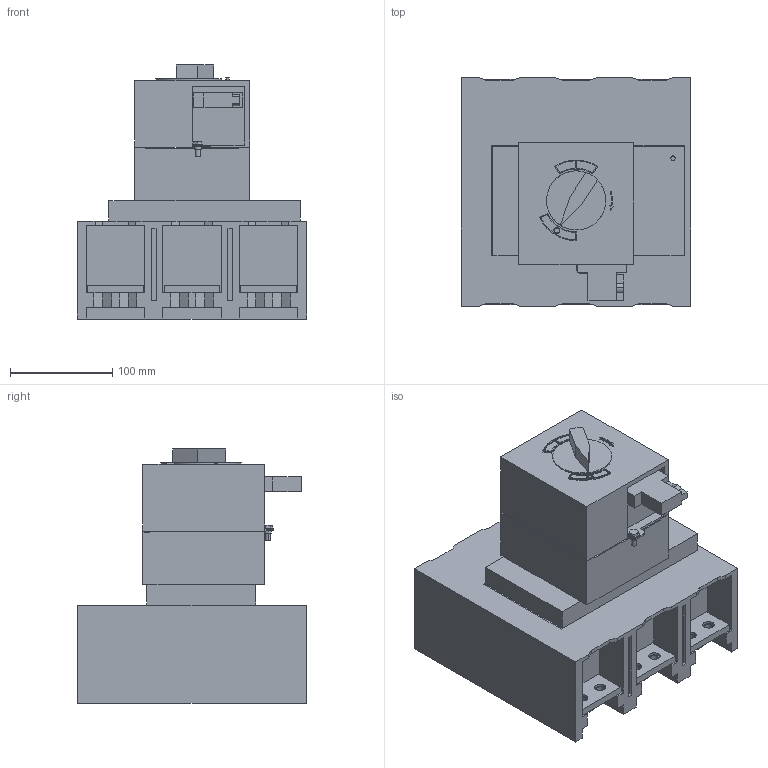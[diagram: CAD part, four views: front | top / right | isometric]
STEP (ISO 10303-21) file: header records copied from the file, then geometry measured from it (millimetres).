
FILE_DESCRIPTION (( 'STEP AP214' ), '1' );
FILE_NAME ('30 (3).STEP', '2023-08-08T08:31:24', ( '' ), ( '' ), 'SwSTEP 2.0', 'SolidWorks 2018', '' );
FILE_SCHEMA (( 'AUTOMOTIVE_DESIGN' ));
Length unit declared in the file: millimetre
Products named in the file (4): 30 (3); Ýëåêòðîìàãíèòíûé ïðèâîä ñîëèä; ÂÀ57-39_¢ë¢®¤ 3 ¬¬; 署赅 闷仁.301122.005_娻腓獱 儐垔.301122.005
Assembly tree (3 placements, depth 2):
  30 (3)
    ÂÀ57-39_¢ë¢®¤ 3 ¬¬
    署赅 闷仁.301122.005_娻腓獱 儐垔.301122.005
    Ýëåêòðîìàãíèòíûé ïðèâîä ñîëèä
Bounding box: 225 x 224 x 249.05 mm (x, y, z)
Volume: 5296704.3 mm3; surface area: 441673.8 mm2
Topology: 4 solids, 14 shells, 520 faces, 1338 edges, 885 vertices
Faces by surface type: plane 412, cylinder 108
Entity records: 16684 total; most frequent: CARTESIAN_POINT 2749, ORIENTED_EDGE 2676, DIRECTION 2609, EDGE_CURVE 1338, LINE 1119, VECTOR 1119, VERTEX_POINT 885, AXIS2_PLACEMENT_3D 745
